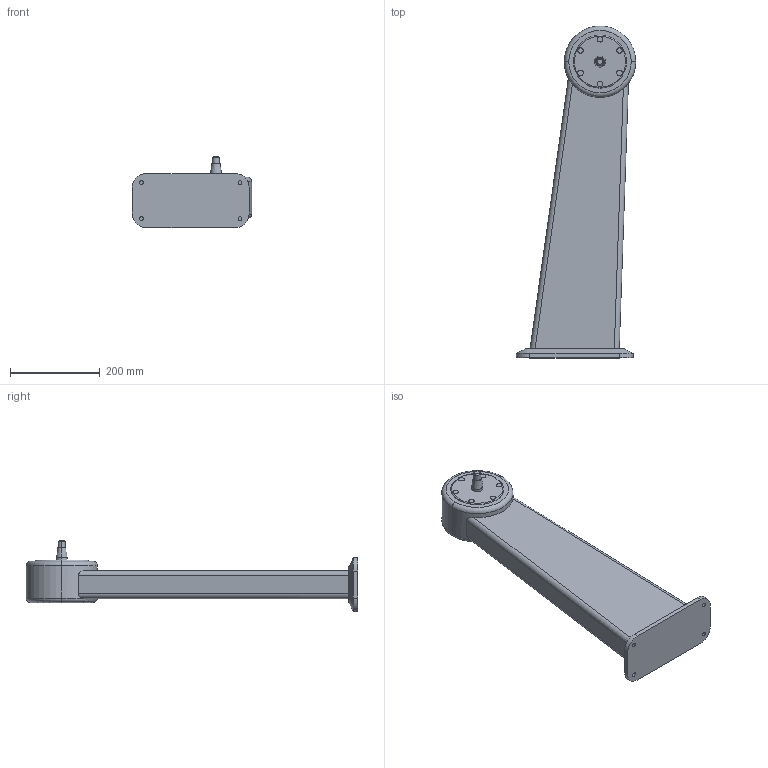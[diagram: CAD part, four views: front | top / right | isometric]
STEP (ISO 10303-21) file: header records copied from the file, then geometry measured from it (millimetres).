
FILE_DESCRIPTION (( 'STEP AP214' ), '1' );
FILE_NAME ('WP700_H660_-05.STEP', '2014-08-14T09:50:08', ( '' ), ( '' ), 'SwSTEP 2.0', 'SolidWorks 2014', '' );
FILE_SCHEMA (( 'AUTOMOTIVE_DESIGN' ));
Length unit declared in the file: millimetre
Products named in the file (1): WP700_H660_-05
Bounding box: 265.95 x 739.5 x 158.3 mm (x, y, z)
Volume: 8336693.9 mm3; surface area: 389149.3 mm2
Topology: 1 solids, 1 shells, 79 faces, 171 edges, 108 vertices
Faces by surface type: cylinder 36, plane 29, cone 8, torus 6
Entity records: 2294 total; most frequent: CARTESIAN_POINT 475, DIRECTION 408, ORIENTED_EDGE 342, EDGE_CURVE 171, AXIS2_PLACEMENT_3D 167, VERTEX_POINT 108, EDGE_LOOP 93, CIRCLE 87
